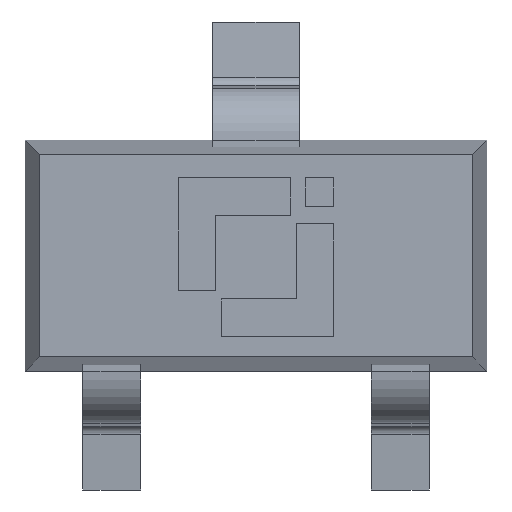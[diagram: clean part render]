
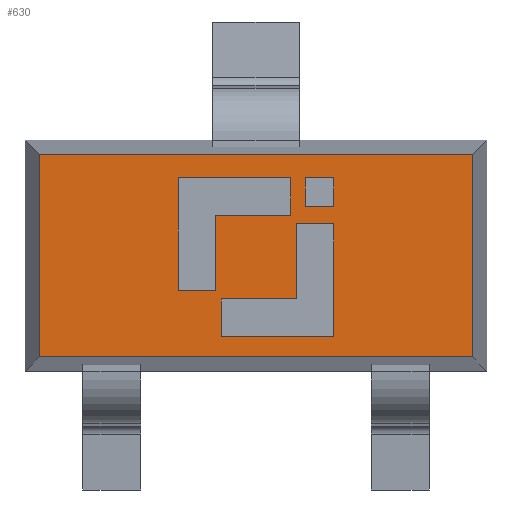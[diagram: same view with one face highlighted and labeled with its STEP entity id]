
A CAD part, top view. The second image highlights one B-rep face of the part: STEP entity #630.
In plain terms, the highlighted planar face has unit normal (0, 0, 1).
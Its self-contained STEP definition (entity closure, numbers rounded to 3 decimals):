
#457=CARTESIAN_POINT('',(0.,0.,0.75));
#458=DIRECTION('',(0.,0.,1.));
#459=DIRECTION('',(1.,0.,0.));
#460=AXIS2_PLACEMENT_3D('',#457,#458,#459);
#461=PLANE('',#460);
#462=CARTESIAN_POINT('',(0.17,0.17,0.75));
#463=VERTEX_POINT('',#462);
#464=CARTESIAN_POINT('',(0.27,0.17,0.75));
#465=VERTEX_POINT('',#464);
#466=CARTESIAN_POINT('',(0.17,0.17,0.75));
#467=DIRECTION('',(1.,0.,-0.));
#468=VECTOR('',#467,0.1);
#469=LINE('',#466,#468);
#470=EDGE_CURVE('',#463,#465,#469,.T.);
#471=ORIENTED_EDGE('',*,*,#470,.F.);
#472=CARTESIAN_POINT('',(0.17,0.27,0.75));
#473=VERTEX_POINT('',#472);
#474=CARTESIAN_POINT('',(0.17,0.27,0.75));
#475=DIRECTION('',(0.,-1.,0.));
#476=VECTOR('',#475,0.1);
#477=LINE('',#474,#476);
#478=EDGE_CURVE('',#473,#463,#477,.T.);
#479=ORIENTED_EDGE('',*,*,#478,.F.);
#480=CARTESIAN_POINT('',(0.27,0.27,0.75));
#481=VERTEX_POINT('',#480);
#482=CARTESIAN_POINT('',(0.27,0.27,0.75));
#483=DIRECTION('',(-1.,0.,0.));
#484=VECTOR('',#483,0.1);
#485=LINE('',#482,#484);
#486=EDGE_CURVE('',#481,#473,#485,.T.);
#487=ORIENTED_EDGE('',*,*,#486,.F.);
#488=CARTESIAN_POINT('',(0.27,0.17,0.75));
#489=DIRECTION('',(0.,1.,0.));
#490=VECTOR('',#489,0.1);
#491=LINE('',#488,#490);
#492=EDGE_CURVE('',#465,#481,#491,.T.);
#493=ORIENTED_EDGE('',*,*,#492,.F.);
#494=EDGE_LOOP('',(#471,#479,#487,#493));
#495=FACE_BOUND('',#494,.T.);
#496=CARTESIAN_POINT('',(0.75,0.35,0.75));
#497=VERTEX_POINT('',#496);
#498=CARTESIAN_POINT('',(-0.75,0.35,0.75));
#499=VERTEX_POINT('',#498);
#500=CARTESIAN_POINT('',(0.75,0.35,0.75));
#501=DIRECTION('',(-1.,-0.,0.));
#502=VECTOR('',#501,1.5);
#503=LINE('',#500,#502);
#504=EDGE_CURVE('',#497,#499,#503,.T.);
#505=ORIENTED_EDGE('',*,*,#504,.T.);
#506=CARTESIAN_POINT('',(-0.75,-0.35,0.75));
#507=VERTEX_POINT('',#506);
#508=CARTESIAN_POINT('',(-0.75,0.35,0.75));
#509=DIRECTION('',(0.,-1.,0.));
#510=VECTOR('',#509,0.7);
#511=LINE('',#508,#510);
#512=EDGE_CURVE('',#499,#507,#511,.T.);
#513=ORIENTED_EDGE('',*,*,#512,.T.);
#514=CARTESIAN_POINT('',(0.75,-0.35,0.75));
#515=VERTEX_POINT('',#514);
#516=CARTESIAN_POINT('',(-0.75,-0.35,0.75));
#517=DIRECTION('',(1.,0.,0.));
#518=VECTOR('',#517,1.5);
#519=LINE('',#516,#518);
#520=EDGE_CURVE('',#507,#515,#519,.T.);
#521=ORIENTED_EDGE('',*,*,#520,.T.);
#522=CARTESIAN_POINT('',(0.75,-0.35,0.75));
#523=DIRECTION('',(-0.,1.,0.));
#524=VECTOR('',#523,0.7);
#525=LINE('',#522,#524);
#526=EDGE_CURVE('',#515,#497,#525,.T.);
#527=ORIENTED_EDGE('',*,*,#526,.T.);
#528=EDGE_LOOP('',(#505,#513,#521,#527));
#529=FACE_BOUND('',#528,.T.);
#530=CARTESIAN_POINT('',(-0.27,0.27,0.75));
#531=VERTEX_POINT('',#530);
#532=CARTESIAN_POINT('',(0.12,0.27,0.75));
#533=VERTEX_POINT('',#532);
#534=CARTESIAN_POINT('',(-0.27,0.27,0.75));
#535=DIRECTION('',(1.,0.,-0.));
#536=VECTOR('',#535,0.39);
#537=LINE('',#534,#536);
#538=EDGE_CURVE('',#531,#533,#537,.T.);
#539=ORIENTED_EDGE('',*,*,#538,.T.);
#540=CARTESIAN_POINT('',(0.12,0.14,0.75));
#541=VERTEX_POINT('',#540);
#542=CARTESIAN_POINT('',(0.12,0.27,0.75));
#543=DIRECTION('',(0.,-1.,0.));
#544=VECTOR('',#543,0.13);
#545=LINE('',#542,#544);
#546=EDGE_CURVE('',#533,#541,#545,.T.);
#547=ORIENTED_EDGE('',*,*,#546,.T.);
#548=CARTESIAN_POINT('',(-0.14,0.14,0.75));
#549=VERTEX_POINT('',#548);
#550=CARTESIAN_POINT('',(0.12,0.14,0.75));
#551=DIRECTION('',(-1.,0.,0.));
#552=VECTOR('',#551,0.26);
#553=LINE('',#550,#552);
#554=EDGE_CURVE('',#541,#549,#553,.T.);
#555=ORIENTED_EDGE('',*,*,#554,.T.);
#556=CARTESIAN_POINT('',(-0.14,-0.12,0.75));
#557=VERTEX_POINT('',#556);
#558=CARTESIAN_POINT('',(-0.14,0.14,0.75));
#559=DIRECTION('',(0.,-1.,0.));
#560=VECTOR('',#559,0.26);
#561=LINE('',#558,#560);
#562=EDGE_CURVE('',#549,#557,#561,.T.);
#563=ORIENTED_EDGE('',*,*,#562,.T.);
#564=CARTESIAN_POINT('',(-0.27,-0.12,0.75));
#565=VERTEX_POINT('',#564);
#566=CARTESIAN_POINT('',(-0.14,-0.12,0.75));
#567=DIRECTION('',(-1.,0.,0.));
#568=VECTOR('',#567,0.13);
#569=LINE('',#566,#568);
#570=EDGE_CURVE('',#557,#565,#569,.T.);
#571=ORIENTED_EDGE('',*,*,#570,.T.);
#572=CARTESIAN_POINT('',(-0.27,-0.12,0.75));
#573=DIRECTION('',(0.,1.,0.));
#574=VECTOR('',#573,0.39);
#575=LINE('',#572,#574);
#576=EDGE_CURVE('',#565,#531,#575,.T.);
#577=ORIENTED_EDGE('',*,*,#576,.T.);
#578=EDGE_LOOP('',(#539,#547,#555,#563,#571,#577));
#579=FACE_BOUND('',#578,.T.);
#580=CARTESIAN_POINT('',(0.14,0.11,0.75));
#581=VERTEX_POINT('',#580);
#582=CARTESIAN_POINT('',(0.27,0.11,0.75));
#583=VERTEX_POINT('',#582);
#584=CARTESIAN_POINT('',(0.14,0.11,0.75));
#585=DIRECTION('',(1.,0.,0.));
#586=VECTOR('',#585,0.13);
#587=LINE('',#584,#586);
#588=EDGE_CURVE('',#581,#583,#587,.T.);
#589=ORIENTED_EDGE('',*,*,#588,.T.);
#590=CARTESIAN_POINT('',(0.27,-0.28,0.75));
#591=VERTEX_POINT('',#590);
#592=CARTESIAN_POINT('',(0.27,0.11,0.75));
#593=DIRECTION('',(0.,-1.,0.));
#594=VECTOR('',#593,0.39);
#595=LINE('',#592,#594);
#596=EDGE_CURVE('',#583,#591,#595,.T.);
#597=ORIENTED_EDGE('',*,*,#596,.T.);
#598=CARTESIAN_POINT('',(-0.12,-0.28,0.75));
#599=VERTEX_POINT('',#598);
#600=CARTESIAN_POINT('',(0.27,-0.28,0.75));
#601=DIRECTION('',(-1.,0.,0.));
#602=VECTOR('',#601,0.39);
#603=LINE('',#600,#602);
#604=EDGE_CURVE('',#591,#599,#603,.T.);
#605=ORIENTED_EDGE('',*,*,#604,.T.);
#606=CARTESIAN_POINT('',(-0.12,-0.15,0.75));
#607=VERTEX_POINT('',#606);
#608=CARTESIAN_POINT('',(-0.12,-0.28,0.75));
#609=DIRECTION('',(-0.,1.,0.));
#610=VECTOR('',#609,0.13);
#611=LINE('',#608,#610);
#612=EDGE_CURVE('',#599,#607,#611,.T.);
#613=ORIENTED_EDGE('',*,*,#612,.T.);
#614=CARTESIAN_POINT('',(0.14,-0.15,0.75));
#615=VERTEX_POINT('',#614);
#616=CARTESIAN_POINT('',(-0.12,-0.15,0.75));
#617=DIRECTION('',(1.,0.,-0.));
#618=VECTOR('',#617,0.26);
#619=LINE('',#616,#618);
#620=EDGE_CURVE('',#607,#615,#619,.T.);
#621=ORIENTED_EDGE('',*,*,#620,.T.);
#622=CARTESIAN_POINT('',(0.14,-0.15,0.75));
#623=DIRECTION('',(0.,1.,0.));
#624=VECTOR('',#623,0.26);
#625=LINE('',#622,#624);
#626=EDGE_CURVE('',#615,#581,#625,.T.);
#627=ORIENTED_EDGE('',*,*,#626,.T.);
#628=EDGE_LOOP('',(#589,#597,#605,#613,#621,#627));
#629=FACE_BOUND('',#628,.T.);
#630=ADVANCED_FACE('',(#495,#529,#579,#629),#461,.T.);
